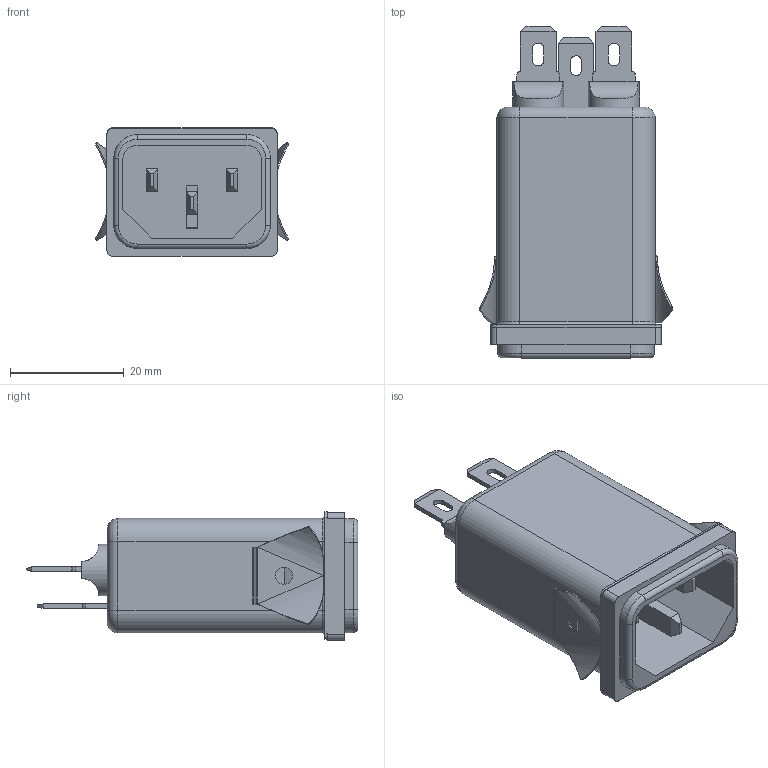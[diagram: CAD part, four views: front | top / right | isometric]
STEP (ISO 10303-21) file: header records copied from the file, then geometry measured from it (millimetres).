
FILE_DESCRIPTION((''),'2;1');
FILE_NAME('D:\_ PRODUCT\New project\3D request\FN9222(33_44)S-xx-06-20\FN922_33_44S (-20).stp','2013-09-25T11:45:29',('sayan.penton'),(''),'Autodesk Inventor 2013','Autodesk Inventor 2013','');
FILE_SCHEMA(('AUTOMOTIVE_DESIGN { 1 0 10303 214 1 1 1 1 }'));
Length unit declared in the file: millimetre
Products named in the file (1): Part3
Bounding box: 33.98 x 58.3 x 22.52 mm (x, y, z)
Volume: 6657.6 mm3; surface area: 14406.5 mm2
Topology: 1 solids, 1 shells, 593 faces, 1703 edges, 1086 vertices
Faces by surface type: plane 418, cylinder 139, torus 20, bspline 16
Full cylindrical faces by diameter (mm): 3 x2, 9 x2, 9.5 x2
Entity records: 20103 total; most frequent: CARTESIAN_POINT 3829, ORIENTED_EDGE 3390, DIRECTION 3131, EDGE_CURVE 1695, VECTOR 1335, LINE 1335, VERTEX_POINT 1084, AXIS2_PLACEMENT_3D 898
